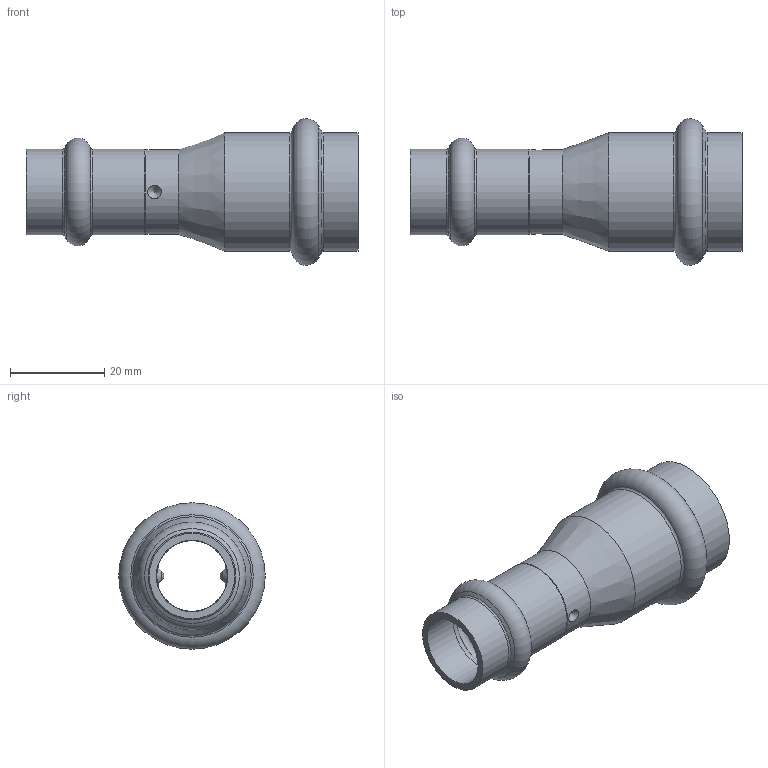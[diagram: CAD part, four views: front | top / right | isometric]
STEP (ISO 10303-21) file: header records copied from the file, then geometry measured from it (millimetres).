
FILE_DESCRIPTION((''),'2;1');
FILE_NAME('G:\Technics\CAD\Bauteile\022\692402215(1).stp','2008-02-21T14:06:01',('herberg'),(''),'Autodesk Inventor 2008','Autodesk Inventor 2008','');
FILE_SCHEMA(('AUTOMOTIVE_DESIGN { 1 0 10303 214 1 1 1 1 }'));
Length unit declared in the file: millimetre
Products named in the file (1): 692402215(1)
Bounding box: 70.5 x 31.08 x 31.08 mm (x, y, z)
Volume: 7421.3 mm3; surface area: 10083.9 mm2
Topology: 1 solids, 1 shells, 38 faces, 88 edges, 51 vertices
Faces by surface type: cone 12, cylinder 10, bspline 8, torus 4, sphere 2, plane 2
Full cylindrical faces by diameter (mm): 15 x1, 15.15 x2, 18 x1, 18.15 x2, 22.15 x2, 25.15 x2
Entity records: 1364 total; most frequent: CARTESIAN_POINT 707, DIRECTION 132, ORIENTED_EDGE 86, EDGE_LOOP 74, AXIS2_PLACEMENT_3D 66, EDGE_CURVE 43, VERTEX_POINT 41, FACE_OUTER_BOUND 38
